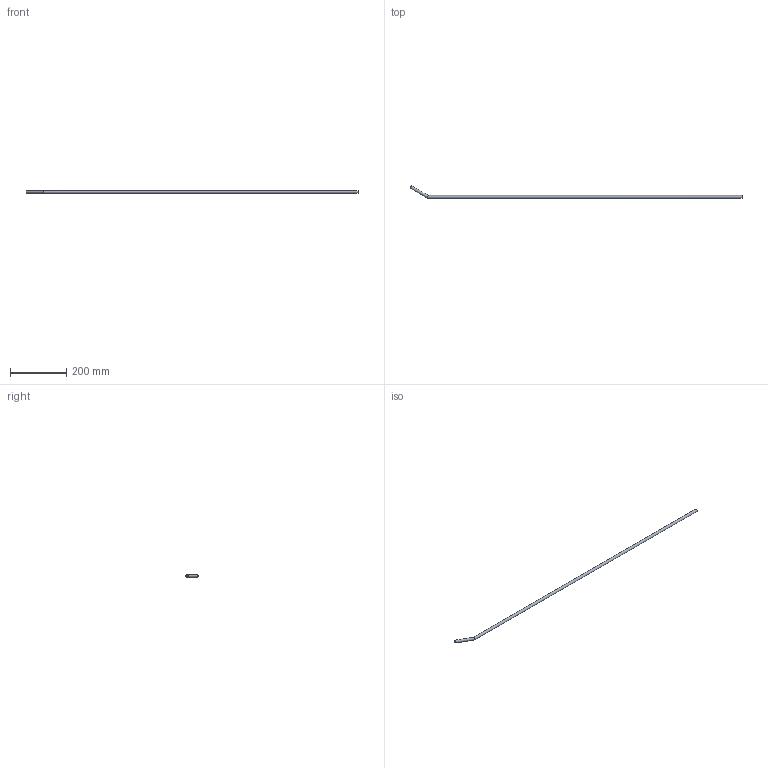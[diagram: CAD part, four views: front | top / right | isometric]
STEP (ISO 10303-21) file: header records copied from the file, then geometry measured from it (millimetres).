
FILE_DESCRIPTION(/* description */ (''),/* implementation_level */ '2;1');
FILE_NAME(/* name */ 'Pos154-Massieve as 10-Aluminium',/* time_stamp */ '2024-08-06T11:49:44+02:00',/* author */ (''),/* organization */ (''),/* preprocessor_version */ 'ST-DEVELOPER v16.5',/* originating_system */ 'HiCAD 2024 2901.2 Build 361',/* authorisation */ '');
FILE_SCHEMA (('AUTOMOTIVE_DESIGN { 1 0 10303 214 1 1 1 1 }'));
Length unit declared in the file: millimetre
Products named in the file (1): Pos154-Massieve as 10-Aluminium
Bounding box: 1179.12 x 44.33 x 10 mm (x, y, z)
Volume: 93148.2 mm3; surface area: 37416.4 mm2
Topology: 1 solids, 1 shells, 4 faces, 8 edges, 6 vertices
Faces by surface type: plane 2, cylinder 2
Full cylindrical faces by diameter (mm): 10 x2
Entity records: 142 total; most frequent: DIRECTION 16, CARTESIAN_POINT 12, PRESENTATION_STYLE_ASSIGNMENT 9, COLOUR_RGB 9, DRAUGHTING_PRE_DEFINED_CURVE_FONT 8, CURVE_STYLE 8, OVER_RIDING_STYLED_ITEM 8, ORIENTED_EDGE 8
